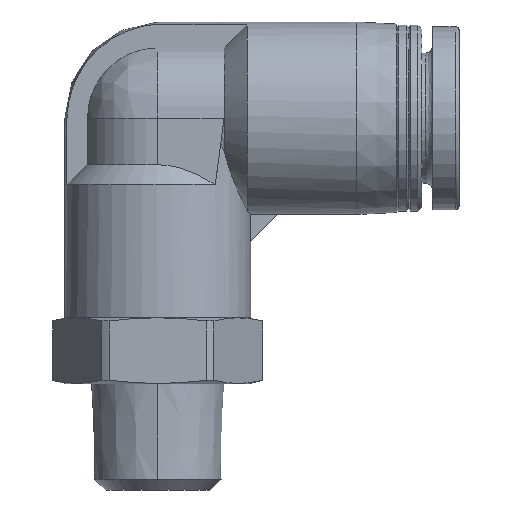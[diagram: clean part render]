
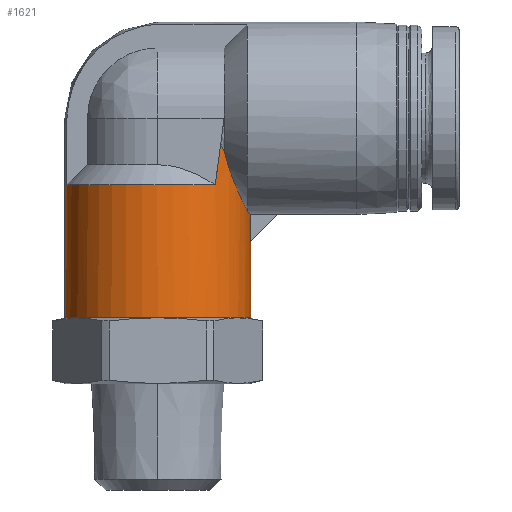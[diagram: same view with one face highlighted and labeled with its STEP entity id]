
A CAD part, front view. The second image highlights one B-rep face of the part: STEP entity #1621.
In plain terms, the highlighted cylindrical face has radius 7 mm (diameter 14 mm), a partial arc.
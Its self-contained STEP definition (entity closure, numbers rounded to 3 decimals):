
#13 = CARTESIAN_POINT ( 'NONE',  ( 4.33, -5.5, 23. ) ) ;
#20 = DIRECTION ( 'NONE',  ( 0., 0., -1. ) ) ;
#35 = VERTEX_POINT ( 'NONE', #697 ) ;
#81 = VERTEX_POINT ( 'NONE', #667 ) ;
#94 = VERTEX_POINT ( 'NONE', #13 ) ;
#127 = VERTEX_POINT ( 'NONE', #193 ) ;
#176 = VERTEX_POINT ( 'NONE', #1971 ) ;
#193 = CARTESIAN_POINT ( 'NONE',  ( 7., 0., 18.75 ) ) ;
#228 = EDGE_CURVE ( 'NONE', #81, #127, #2458, .T. ) ;
#266 = B_SPLINE_CURVE_WITH_KNOTS ( 'NONE', 3,
 ( #429, #454, #432, #409 ),
 .UNSPECIFIED., .F., .F.,
 ( 4, 4 ),
 ( 0., 0.001 ),
 .UNSPECIFIED. ) ;
#310 = CARTESIAN_POINT ( 'NONE',  ( -6.837, -1.5, 28. ) ) ;
#311 = VERTEX_POINT ( 'NONE', #2568 ) ;
#319 = CARTESIAN_POINT ( 'NONE',  ( -6.945, -1.008, 28. ) ) ;
#325 = CARTESIAN_POINT ( 'NONE',  ( -7., -0.504, 28. ) ) ;
#330 = CARTESIAN_POINT ( 'NONE',  ( 6.982, -0.5, 20.767 ) ) ;
#333 = EDGE_CURVE ( 'NONE', #1186, #81, #2534, .T. ) ;
#339 = CARTESIAN_POINT ( 'NONE',  ( -7., 0., 28. ) ) ;
#341 = EDGE_CURVE ( 'NONE', #311, #754, #2464, .T. ) ;
#352 = CARTESIAN_POINT ( 'NONE',  ( 6.75, -1.854, 20.991 ) ) ;
#353 = CARTESIAN_POINT ( 'NONE',  ( 6.634, -2.275, 21.222 ) ) ;
#357 = CARTESIAN_POINT ( 'NONE',  ( 6.489, -2.649, 21.517 ) ) ;
#361 = CARTESIAN_POINT ( 'NONE',  ( 6.182, -3.303, 22.175 ) ) ;
#369 = CARTESIAN_POINT ( 'NONE',  ( 6.019, -3.586, 22.539 ) ) ;
#372 = CARTESIAN_POINT ( 'NONE',  ( 5.694, -4.083, 23.322 ) ) ;
#381 = CARTESIAN_POINT ( 'NONE',  ( 5.535, -4.291, 23.733 ) ) ;
#386 = CARTESIAN_POINT ( 'NONE',  ( 5.244, -4.642, 24.589 ) ) ;
#389 = DIRECTION ( 'NONE',  ( 0., 0., -1. ) ) ;
#392 = CARTESIAN_POINT ( 'NONE',  ( 5., -4.899, 25.5 ) ) ;
#396 = CARTESIAN_POINT ( 'NONE',  ( 5.111, -4.786, 25.034 ) ) ;
#402 = EDGE_CURVE ( 'NONE', #939, #127, #2445, .T. ) ;
#409 = CARTESIAN_POINT ( 'NONE',  ( 6.75, -1.854, 20.991 ) ) ;
#429 = CARTESIAN_POINT ( 'NONE',  ( 6.982, -0.5, 20.767 ) ) ;
#432 = CARTESIAN_POINT ( 'NONE',  ( 6.87, -1.417, 20.875 ) ) ;
#436 = CARTESIAN_POINT ( 'NONE',  ( 6.75, -1.854, 20.991 ) ) ;
#454 = CARTESIAN_POINT ( 'NONE',  ( 6.949, -0.966, 20.799 ) ) ;
#460 = CARTESIAN_POINT ( 'NONE',  ( -6.837, -1.5, 35.093 ) ) ;
#472 = B_SPLINE_CURVE_WITH_KNOTS ( 'NONE', 3,
 ( #392, #396, #386, #381, #372, #369, #361, #357, #353, #352 ),
 .UNSPECIFIED., .F., .F.,
 ( 4, 2, 2, 2, 4 ),
 ( 0., 0.001, 0.003, 0.004, 0.006 ),
 .UNSPECIFIED. ) ;
#513 = VERTEX_POINT ( 'NONE', #1800 ) ;
#597 = CARTESIAN_POINT ( 'NONE',  ( 4.741, -5.15, 26.069 ) ) ;
#667 = CARTESIAN_POINT ( 'NONE',  ( 6.982, -0.5, 18.732 ) ) ;
#685 = EDGE_LOOP ( 'NONE', ( #2339, #2312, #2154, #2292, #2075, #2285, #2165, #2252, #1930, #2070, #2226, #2039 ) ) ;
#697 = CARTESIAN_POINT ( 'NONE',  ( -6.837, -1.5, 28. ) ) ;
#698 = B_SPLINE_CURVE_WITH_KNOTS ( 'NONE', 3,
 ( #2052, #2054, #2770, #2074 ),
 .UNSPECIFIED., .F., .F.,
 ( 4, 4 ),
 ( 0., 0.001 ),
 .UNSPECIFIED. ) ;
#754 = VERTEX_POINT ( 'NONE', #878 ) ;
#762 =( BOUNDED_CURVE ( )  B_SPLINE_CURVE ( 3, ( #917, #1439, #1829, #982 ),
 .UNSPECIFIED., .F., .T. ) 
 B_SPLINE_CURVE_WITH_KNOTS ( ( 4, 4 ),
 ( 0.827, 0.904 ),
 .UNSPECIFIED. ) 
 CURVE ( )  GEOMETRIC_REPRESENTATION_ITEM ( )  RATIONAL_B_SPLINE_CURVE ( ( 1., 1., 1., 1. ) ) 
 REPRESENTATION_ITEM ( '' )  );
#857 = DIRECTION ( 'NONE',  ( 0., 0., 1. ) ) ;
#878 = CARTESIAN_POINT ( 'NONE',  ( -7., 0., 28. ) ) ;
#905 = EDGE_CURVE ( 'NONE', #1146, #94, #762, .T. ) ;
#917 = CARTESIAN_POINT ( 'NONE',  ( 4.741, -5.15, 26.069 ) ) ;
#939 = VERTEX_POINT ( 'NONE', #1904 ) ;
#942 = EDGE_CURVE ( 'NONE', #311, #939, #1813, .T. ) ;
#971 = DIRECTION ( 'NONE',  ( 0., 0., 1. ) ) ;
#982 = CARTESIAN_POINT ( 'NONE',  ( 4.33, -5.5, 23. ) ) ;
#984 = EDGE_CURVE ( 'NONE', #94, #513, #1807, .T. ) ;
#995 = B_SPLINE_CURVE_WITH_KNOTS ( 'NONE', 3,
 ( #339, #325, #319, #310 ),
 .UNSPECIFIED., .F., .F.,
 ( 4, 4 ),
 ( 0., 1. ),
 .UNSPECIFIED. ) ;
#1106 = EDGE_CURVE ( 'NONE', #176, #1146, #698, .T. ) ;
#1146 = VERTEX_POINT ( 'NONE', #597 ) ;
#1159 = EDGE_CURVE ( 'NONE', #1186, #2910, #266, .T. ) ;
#1175 = EDGE_CURVE ( 'NONE', #176, #2910, #472, .T. ) ;
#1182 = EDGE_CURVE ( 'NONE', #35, #513, #1707, .T. ) ;
#1186 = VERTEX_POINT ( 'NONE', #330 ) ;
#1191 = EDGE_CURVE ( 'NONE', #754, #35, #995, .T. ) ;
#1207 = CARTESIAN_POINT ( 'NONE',  ( 7., 0., 13. ) ) ;
#1263 = CARTESIAN_POINT ( 'NONE',  ( -7., 0., 13. ) ) ;
#1286 = DIRECTION ( 'NONE',  ( 1., 0., 0. ) ) ;
#1409 = AXIS2_PLACEMENT_3D ( 'NONE', #2364, #2813, #1286 ) ;
#1439 = CARTESIAN_POINT ( 'NONE',  ( 4.609, -5.272, 25.08 ) ) ;
#1621 = ADVANCED_FACE ( '45', ( #1630 ), #1629, .T. ) ;
#1629 = CYLINDRICAL_SURFACE ( 'NONE', #1409, 7. ) ;
#1630 = FACE_OUTER_BOUND ( 'NONE', #685, .T. ) ;
#1682 = VECTOR ( 'NONE', #389, 1000. ) ;
#1707 = LINE ( 'NONE', #460, #1682 ) ;
#1712 = AXIS2_PLACEMENT_3D ( 'NONE', #2603, #2606, #2609 ) ;
#1721 = AXIS2_PLACEMENT_3D ( 'NONE', #2675, #2610, #2556 ) ;
#1800 = CARTESIAN_POINT ( 'NONE',  ( -6.837, -1.5, 23. ) ) ;
#1807 = CIRCLE ( 'NONE', #1712, 7. ) ;
#1813 = CIRCLE ( 'NONE', #1721, 7. ) ;
#1829 = CARTESIAN_POINT ( 'NONE',  ( 4.472, -5.389, 24.056 ) ) ;
#1904 = CARTESIAN_POINT ( 'NONE',  ( 7., 0., 13. ) ) ;
#1913 = CARTESIAN_POINT ( 'NONE',  ( 6.982, -0.5, 20.767 ) ) ;
#1930 = ORIENTED_EDGE ( 'NONE', *, *, #905, .T. ) ;
#1971 = CARTESIAN_POINT ( 'NONE',  ( 5., -4.899, 25.5 ) ) ;
#2039 = ORIENTED_EDGE ( 'NONE', *, *, #1191, .F. ) ;
#2052 = CARTESIAN_POINT ( 'NONE',  ( 5., -4.899, 25.5 ) ) ;
#2054 = CARTESIAN_POINT ( 'NONE',  ( 4.909, -4.992, 25.683 ) ) ;
#2070 = ORIENTED_EDGE ( 'NONE', *, *, #984, .T. ) ;
#2074 = CARTESIAN_POINT ( 'NONE',  ( 4.741, -5.15, 26.069 ) ) ;
#2075 = ORIENTED_EDGE ( 'NONE', *, *, #333, .F. ) ;
#2154 = ORIENTED_EDGE ( 'NONE', *, *, #402, .T. ) ;
#2165 = ORIENTED_EDGE ( 'NONE', *, *, #1175, .F. ) ;
#2226 = ORIENTED_EDGE ( 'NONE', *, *, #1182, .F. ) ;
#2252 = ORIENTED_EDGE ( 'NONE', *, *, #1106, .T. ) ;
#2285 = ORIENTED_EDGE ( 'NONE', *, *, #1159, .T. ) ;
#2292 = ORIENTED_EDGE ( 'NONE', *, *, #228, .F. ) ;
#2312 = ORIENTED_EDGE ( 'NONE', *, *, #942, .T. ) ;
#2339 = ORIENTED_EDGE ( 'NONE', *, *, #341, .F. ) ;
#2364 = CARTESIAN_POINT ( 'NONE',  ( 0., 0., 13. ) ) ;
#2436 = VECTOR ( 'NONE', #971, 1000. ) ;
#2445 = LINE ( 'NONE', #1207, #2436 ) ;
#2458 =( BOUNDED_CURVE ( )  B_SPLINE_CURVE ( 3, ( #2712, #2895, #2644, #2497 ),
 .UNSPECIFIED., .F., .T. ) 
 B_SPLINE_CURVE_WITH_KNOTS ( ( 4, 4 ),
 ( 6.212, 6.283 ),
 .UNSPECIFIED. ) 
 CURVE ( )  GEOMETRIC_REPRESENTATION_ITEM ( )  RATIONAL_B_SPLINE_CURVE ( ( 1., 1., 1., 1. ) ) 
 REPRESENTATION_ITEM ( '' )  );
#2461 = VECTOR ( 'NONE', #857, 1000. ) ;
#2464 = LINE ( 'NONE', #1263, #2461 ) ;
#2475 = VECTOR ( 'NONE', #20, 1000. ) ;
#2497 = CARTESIAN_POINT ( 'NONE',  ( 7., 0., 18.75 ) ) ;
#2534 = LINE ( 'NONE', #1913, #2475 ) ;
#2556 = DIRECTION ( 'NONE',  ( 1., 0., 0. ) ) ;
#2568 = CARTESIAN_POINT ( 'NONE',  ( -7., 0., 13. ) ) ;
#2603 = CARTESIAN_POINT ( 'NONE',  ( 0., 0., 23. ) ) ;
#2606 = DIRECTION ( 'NONE',  ( 0., 0., -1. ) ) ;
#2609 = DIRECTION ( 'NONE',  ( 1., 0., 0. ) ) ;
#2610 = DIRECTION ( 'NONE',  ( 0., 0., 1. ) ) ;
#2644 = CARTESIAN_POINT ( 'NONE',  ( 7., -0.167, 18.75 ) ) ;
#2675 = CARTESIAN_POINT ( 'NONE',  ( 0., 0., 13. ) ) ;
#2712 = CARTESIAN_POINT ( 'NONE',  ( 6.982, -0.5, 18.732 ) ) ;
#2770 = CARTESIAN_POINT ( 'NONE',  ( 4.821, -5.076, 25.872 ) ) ;
#2813 = DIRECTION ( 'NONE',  ( 0., 0., 1. ) ) ;
#2895 = CARTESIAN_POINT ( 'NONE',  ( 6.994, -0.334, 18.744 ) ) ;
#2910 = VERTEX_POINT ( 'NONE', #436 ) ;
